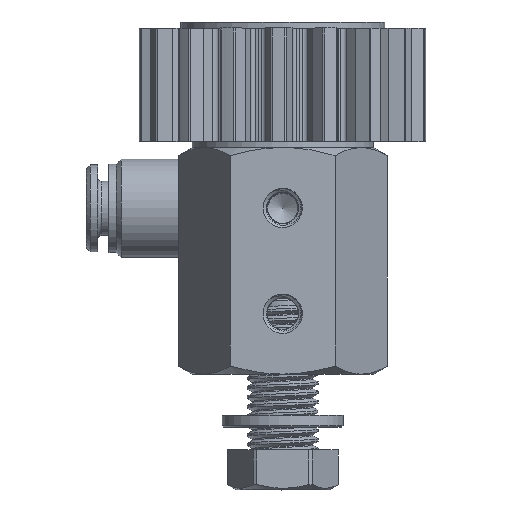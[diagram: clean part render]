
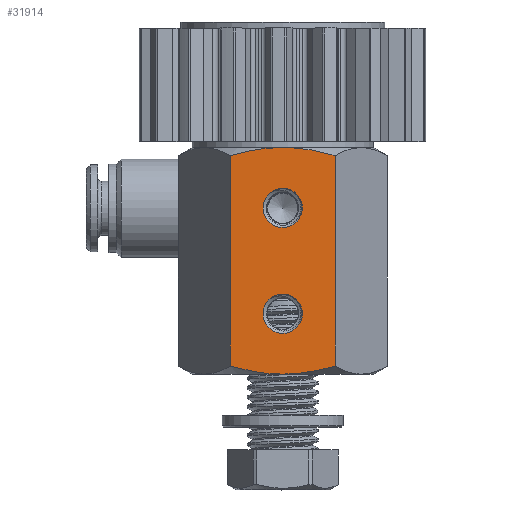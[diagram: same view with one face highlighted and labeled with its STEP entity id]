
A CAD part, top view. The second image highlights one B-rep face of the part: STEP entity #31914.
In plain terms, the highlighted planar face has unit normal (0, 0, 1).
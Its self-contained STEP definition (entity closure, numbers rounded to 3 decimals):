
#453 = AXIS2_PLACEMENT_3D ( 'NONE', #32819, #22673, #19216 ) ;
#762 = CARTESIAN_POINT ( 'NONE',  ( 0.593, 0., 12. ) ) ;
#852 = EDGE_CURVE ( 'NONE', #35379, #10459, #22814, .T. ) ;
#1144 = EDGE_LOOP ( 'NONE', ( #31778 ) ) ;
#1270 = LINE ( 'NONE', #32709, #25954 ) ;
#1311 = CARTESIAN_POINT ( 'NONE',  ( -6.928, 28.928, 12. ) ) ;
#1864 = CARTESIAN_POINT ( 'NONE',  ( -2.354, 0.103, 12. ) ) ;
#2067 = VERTEX_POINT ( 'NONE', #33978 ) ;
#4223 = CARTESIAN_POINT ( 'NONE',  ( 6.928, 1.072, 12. ) ) ;
#4742 = CARTESIAN_POINT ( 'NONE',  ( -6.928, 1.072, 12. ) ) ;
#4901 = CARTESIAN_POINT ( 'NONE',  ( 6.928, 28.928, 12. ) ) ;
#4904 = CARTESIAN_POINT ( 'NONE',  ( 0., 0., 12. ) ) ;
#5449 = ORIENTED_EDGE ( 'NONE', *, *, #33056, .T. ) ;
#8671 = DIRECTION ( 'NONE',  ( 0., -1., 0. ) ) ;
#8736 = AXIS2_PLACEMENT_3D ( 'NONE', #8773, #23600, #40892 ) ;
#8773 = CARTESIAN_POINT ( 'NONE',  ( 6.928, 30., 12. ) ) ;
#9182 = DIRECTION ( 'NONE',  ( 0., -1., 0. ) ) ;
#9660 = CARTESIAN_POINT ( 'NONE',  ( -6.928, 30., 12. ) ) ;
#10050 = ORIENTED_EDGE ( 'NONE', *, *, #16818, .F. ) ;
#10459 = VERTEX_POINT ( 'NONE', #32103 ) ;
#10872 = CARTESIAN_POINT ( 'NONE',  ( 2.6, 8., 12. ) ) ;
#11933 = CARTESIAN_POINT ( 'NONE',  ( -2.933, 29.803, 12. ) ) ;
#12289 = DIRECTION ( 'NONE',  ( 0., 0., -1. ) ) ;
#12370 = VERTEX_POINT ( 'NONE', #4742 ) ;
#12400 = CARTESIAN_POINT ( 'NONE',  ( -1.183, 29.974, 12. ) ) ;
#13480 = EDGE_LOOP ( 'NONE', ( #5449 ) ) ;
#13896 = CARTESIAN_POINT ( 'NONE',  ( 2.354, 29.897, 12. ) ) ;
#14561 = CARTESIAN_POINT ( 'NONE',  ( 1.186, 30., 12. ) ) ;
#14811 = FACE_BOUND ( 'NONE', #1144, .T. ) ;
#14859 = CARTESIAN_POINT ( 'NONE',  ( 5.801, 0.746, 12. ) ) ;
#15254 = CIRCLE ( 'NONE', #16784, 2.6 ) ;
#15548 = CARTESIAN_POINT ( 'NONE',  ( 2.933, 0.197, 12. ) ) ;
#15749 = CARTESIAN_POINT ( 'NONE',  ( -6.928, 1.072, 12. ) ) ;
#15985 = CARTESIAN_POINT ( 'NONE',  ( -1.186, 0., 12. ) ) ;
#16139 = LINE ( 'NONE', #9660, #38148 ) ;
#16571 = B_SPLINE_CURVE_WITH_KNOTS ( 'NONE', 3,
 ( #15749, #33784, #33540, #1864, #15985, #44149 ),
 .UNSPECIFIED., .F., .F.,
 ( 4, 2, 4 ),
 ( 0.015, 0.019, 0.022 ),
 .UNSPECIFIED. ) ;
#16784 = AXIS2_PLACEMENT_3D ( 'NONE', #34269, #12289, #16973 ) ;
#16818 = EDGE_CURVE ( 'NONE', #35379, #26384, #1270, .T. ) ;
#16973 = DIRECTION ( 'NONE',  ( -1., 0., 0. ) ) ;
#17002 = B_SPLINE_CURVE_WITH_KNOTS ( 'NONE', 3,
 ( #4904, #762, #29169, #28726, #15548, #25269, #14859, #4223 ),
 .UNSPECIFIED., .F., .F.,
 ( 4, 2, 2, 4 ),
 ( 0.022, 0.024, 0.026, 0.029 ),
 .UNSPECIFIED. ) ;
#17363 = CARTESIAN_POINT ( 'NONE',  ( 4.661, 29.523, 12. ) ) ;
#17408 = ORIENTED_EDGE ( 'NONE', *, *, #852, .T. ) ;
#18055 = VERTEX_POINT ( 'NONE', #25681 ) ;
#18902 = CARTESIAN_POINT ( 'NONE',  ( -2.353, 29.876, 12. ) ) ;
#19216 = DIRECTION ( 'NONE',  ( 1., 0., 0. ) ) ;
#21575 = ORIENTED_EDGE ( 'NONE', *, *, #45426, .T. ) ;
#22420 = FACE_BOUND ( 'NONE', #13480, .T. ) ;
#22611 = ORIENTED_EDGE ( 'NONE', *, *, #26276, .T. ) ;
#22673 = DIRECTION ( 'NONE',  ( 0., 0., 1. ) ) ;
#22814 = B_SPLINE_CURVE_WITH_KNOTS ( 'NONE', 3,
 ( #24311, #38376, #17363, #13896, #14561, #35812 ),
 .UNSPECIFIED., .F., .F.,
 ( 4, 2, 4 ),
 ( 0.015, 0.019, 0.022 ),
 .UNSPECIFIED. ) ;
#23600 = DIRECTION ( 'NONE',  ( 0., 0., 1. ) ) ;
#23885 = EDGE_LOOP ( 'NONE', ( #17408, #22611, #21575, #34090, #43343, #10050 ) ) ;
#24311 = CARTESIAN_POINT ( 'NONE',  ( 6.928, 28.928, 12. ) ) ;
#25269 = CARTESIAN_POINT ( 'NONE',  ( 4.663, 0.477, 12. ) ) ;
#25681 = CARTESIAN_POINT ( 'NONE',  ( 0., 0., 12. ) ) ;
#25710 = EDGE_CURVE ( 'NONE', #42515, #42515, #30763, .T. ) ;
#25954 = VECTOR ( 'NONE', #8671, 1000. ) ;
#26276 = EDGE_CURVE ( 'NONE', #10459, #43233, #29006, .T. ) ;
#26384 = VERTEX_POINT ( 'NONE', #44509 ) ;
#27846 = EDGE_CURVE ( 'NONE', #12370, #18055, #16571, .T. ) ;
#28726 = CARTESIAN_POINT ( 'NONE',  ( 2.353, 0.124, 12. ) ) ;
#28887 = FACE_OUTER_BOUND ( 'NONE', #23885, .T. ) ;
#29006 = B_SPLINE_CURVE_WITH_KNOTS ( 'NONE', 3,
 ( #40123, #36905, #12400, #18902, #11933, #36444, #39895, #1311 ),
 .UNSPECIFIED., .F., .F.,
 ( 4, 2, 2, 4 ),
 ( 0.022, 0.024, 0.026, 0.029 ),
 .UNSPECIFIED. ) ;
#29169 = CARTESIAN_POINT ( 'NONE',  ( 1.183, 0.026, 12. ) ) ;
#30763 = CIRCLE ( 'NONE', #453, 2.6 ) ;
#31324 = EDGE_CURVE ( 'NONE', #18055, #26384, #17002, .T. ) ;
#31778 = ORIENTED_EDGE ( 'NONE', *, *, #25710, .F. ) ;
#31914 = ADVANCED_FACE ( 'NONE', ( #14811, #22420, #28887 ), #36504, .T. ) ;
#32103 = CARTESIAN_POINT ( 'NONE',  ( 0., 30., 12. ) ) ;
#32709 = CARTESIAN_POINT ( 'NONE',  ( 6.928, 30., 12. ) ) ;
#32819 = CARTESIAN_POINT ( 'NONE',  ( 0., 8., 12. ) ) ;
#33056 = EDGE_CURVE ( 'NONE', #2067, #2067, #15254, .T. ) ;
#33540 = CARTESIAN_POINT ( 'NONE',  ( -4.661, 0.477, 12. ) ) ;
#33784 = CARTESIAN_POINT ( 'NONE',  ( -5.8, 0.746, 12. ) ) ;
#33978 = CARTESIAN_POINT ( 'NONE',  ( -2.6, 22., 12. ) ) ;
#34090 = ORIENTED_EDGE ( 'NONE', *, *, #27846, .T. ) ;
#34188 = CARTESIAN_POINT ( 'NONE',  ( -6.928, 28.928, 12. ) ) ;
#34269 = CARTESIAN_POINT ( 'NONE',  ( 0., 22., 12. ) ) ;
#35379 = VERTEX_POINT ( 'NONE', #4901 ) ;
#35812 = CARTESIAN_POINT ( 'NONE',  ( 0., 30., 12. ) ) ;
#36444 = CARTESIAN_POINT ( 'NONE',  ( -4.663, 29.523, 12. ) ) ;
#36504 = PLANE ( 'NONE',  #8736 ) ;
#36905 = CARTESIAN_POINT ( 'NONE',  ( -0.593, 30., 12. ) ) ;
#38148 = VECTOR ( 'NONE', #9182, 1000. ) ;
#38376 = CARTESIAN_POINT ( 'NONE',  ( 5.8, 29.254, 12. ) ) ;
#39895 = CARTESIAN_POINT ( 'NONE',  ( -5.801, 29.254, 12. ) ) ;
#40123 = CARTESIAN_POINT ( 'NONE',  ( 0., 30., 12. ) ) ;
#40892 = DIRECTION ( 'NONE',  ( 1., 0., 0. ) ) ;
#42515 = VERTEX_POINT ( 'NONE', #10872 ) ;
#43233 = VERTEX_POINT ( 'NONE', #34188 ) ;
#43343 = ORIENTED_EDGE ( 'NONE', *, *, #31324, .T. ) ;
#44149 = CARTESIAN_POINT ( 'NONE',  ( 0., 0., 12. ) ) ;
#44509 = CARTESIAN_POINT ( 'NONE',  ( 6.928, 1.072, 12. ) ) ;
#45426 = EDGE_CURVE ( 'NONE', #43233, #12370, #16139, .T. ) ;
